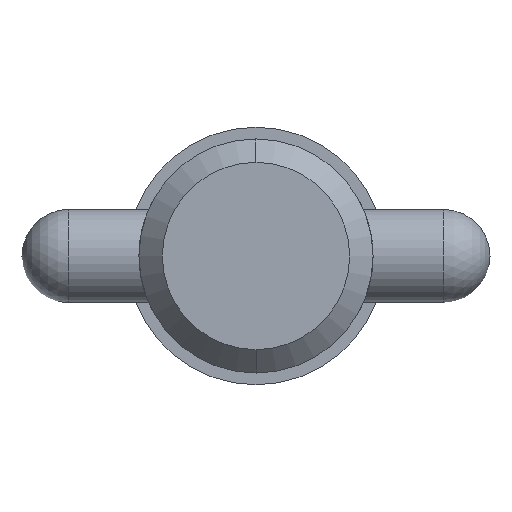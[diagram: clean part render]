
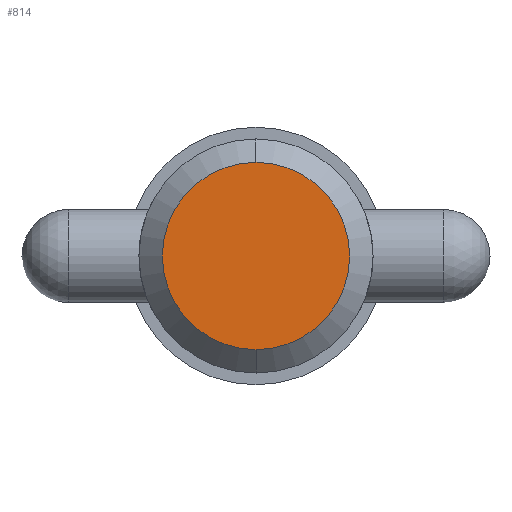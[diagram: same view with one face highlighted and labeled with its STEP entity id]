
A CAD part, left-side view. The second image highlights one B-rep face of the part: STEP entity #814.
In plain terms, the highlighted planar face has unit normal (-1, 0, 0).
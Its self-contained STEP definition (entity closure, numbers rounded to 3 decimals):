
#60 = AXIS2_PLACEMENT_3D ( 'NONE', #899, #1007, #177 ) ;
#64 = EDGE_CURVE ( 'NONE', #592, #962, #250, .T. ) ;
#177 = DIRECTION ( 'NONE',  ( 0., 0., -1. ) ) ;
#182 = ORIENTED_EDGE ( 'NONE', *, *, #64, .F. ) ;
#214 = EDGE_LOOP ( 'NONE', ( #182, #525 ) ) ;
#223 = DIRECTION ( 'NONE',  ( 1., 0., 0. ) ) ;
#250 = CIRCLE ( 'NONE', #60, 6.352 ) ;
#338 = CIRCLE ( 'NONE', #935, 6.352 ) ;
#465 = PLANE ( 'NONE',  #839 ) ;
#472 = DIRECTION ( 'NONE',  ( 0., 0., 1. ) ) ;
#512 = CARTESIAN_POINT ( 'NONE',  ( 0., 0., -6.352 ) ) ;
#525 = ORIENTED_EDGE ( 'NONE', *, *, #874, .F. ) ;
#561 = FACE_OUTER_BOUND ( 'NONE', #214, .T. ) ;
#592 = VERTEX_POINT ( 'NONE', #512 ) ;
#635 = CARTESIAN_POINT ( 'NONE',  ( 0., 0., 0. ) ) ;
#640 = DIRECTION ( 'NONE',  ( 0., 0., -1. ) ) ;
#814 = ADVANCED_FACE ( 'NONE', ( #561 ), #465, .T. ) ;
#824 = CARTESIAN_POINT ( 'NONE',  ( 0., 0., 6.352 ) ) ;
#839 = AXIS2_PLACEMENT_3D ( 'NONE', #1037, #1052, #472 ) ;
#874 = EDGE_CURVE ( 'NONE', #962, #592, #338, .T. ) ;
#899 = CARTESIAN_POINT ( 'NONE',  ( 0., 0., 0. ) ) ;
#935 = AXIS2_PLACEMENT_3D ( 'NONE', #635, #223, #640 ) ;
#962 = VERTEX_POINT ( 'NONE', #824 ) ;
#1007 = DIRECTION ( 'NONE',  ( 1., 0., 0. ) ) ;
#1037 = CARTESIAN_POINT ( 'NONE',  ( 0., 0., 0. ) ) ;
#1052 = DIRECTION ( 'NONE',  ( -1., 0., 0. ) ) ;
